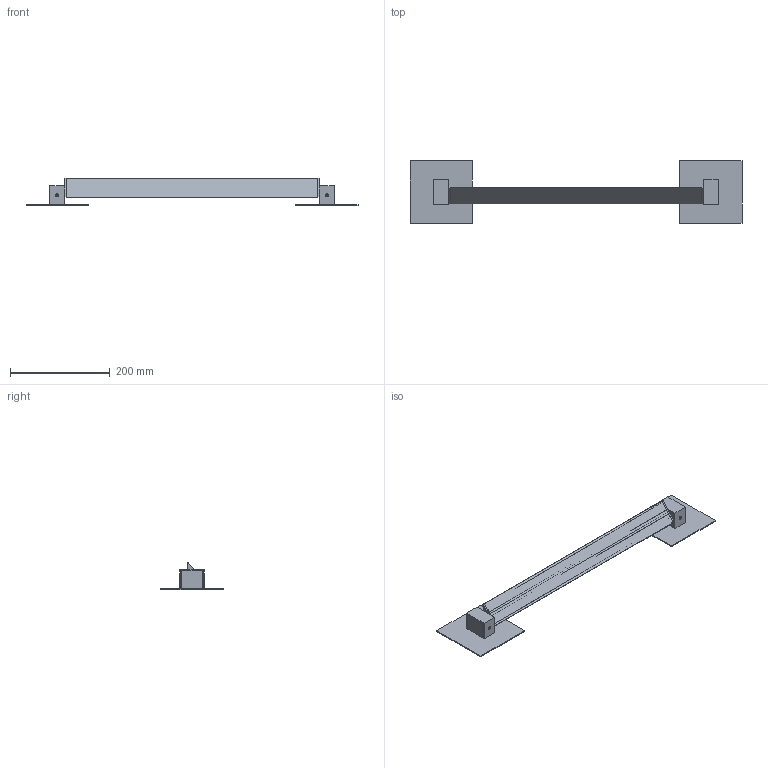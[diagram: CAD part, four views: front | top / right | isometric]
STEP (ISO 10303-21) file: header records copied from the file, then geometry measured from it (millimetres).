
FILE_DESCRIPTION(/* description */ ('Unknown'),/* implementation_level */ '2;1');
FILE_NAME(/* name */ 'F39 G01-G02',/* time_stamp */ '2021-01-11T10:23:40+01:00',/* author */ ('Unknown'),/* organization */ ('Unknown'),/* preprocessor_version */ 'ST-DEVELOPER v16.7',/* originating_system */ 'Solid Edge',/* authorisation */ 'Unknown');
FILE_SCHEMA (('AUTOMOTIVE_DESIGN {1 0 10303 214 3 1 1}'));
Length unit declared in the file: millimetre
Products named in the file (11): ASSIEME APPLIQUE PIVOT_R07 - America; STAFFA AP PIVOT_R07; COPRI STAFFA AP PIVOT_R07; PERNO PIVOT_R07; TAPPO TESTA PIVOT_R07; hex nut style 1 gradeab_iso_Hexagon Nut ISO - 4032 - M8 - D - N; BARRA APPLIQUE PIVOT_R07; DIFFUSORE APPLIQUE PIVOT_R07; Vite TCSC M3 X  4; Vite TCC autof. 2,2 x 6; Placca America
Assembly tree (21 placements, depth 2):
  ASSIEME APPLIQUE PIVOT_R07 - America
    STAFFA AP PIVOT_R07  x2
    COPRI STAFFA AP PIVOT_R07  x2
    PERNO PIVOT_R07  x2
    TAPPO TESTA PIVOT_R07  x2
    hex nut style 1 gradeab_iso_Hexagon Nut ISO - 4032 - M8 - D - N  x2
    BARRA APPLIQUE PIVOT_R07
    DIFFUSORE APPLIQUE PIVOT_R07  x2
    Vite TCSC M3 X  4  x4
    Vite TCC autof. 2,2 x 6  x2
    Placca America  x2
Bounding box: 667 x 125.16 x 55.47 mm (x, y, z)
Volume: 199356.4 mm3; surface area: 263753.8 mm2
Topology: 21 solids, 21 shells, 609 faces, 1501 edges, 951 vertices
Faces by surface type: plane 309, cylinder 198, cone 58, bspline 22, torus 20, sphere 2
Full cylindrical faces by diameter (mm): 1.2 x10, 2 x2, 2.5 x4, 3 x6, 3.4 x4, 4 x4, 5 x2, 5.2 x4, 6.8 x2, 7 x8, 7.2 x1, 8 x4, 8.2 x2, 11 x2, 13 x2
Entity records: 10704 total; most frequent: CARTESIAN_POINT 2763, DIRECTION 1545, ORIENTED_EDGE 1446, EDGE_CURVE 723, AXIS2_PLACEMENT_3D 556, VERTEX_POINT 484, LINE 433, VECTOR 433
